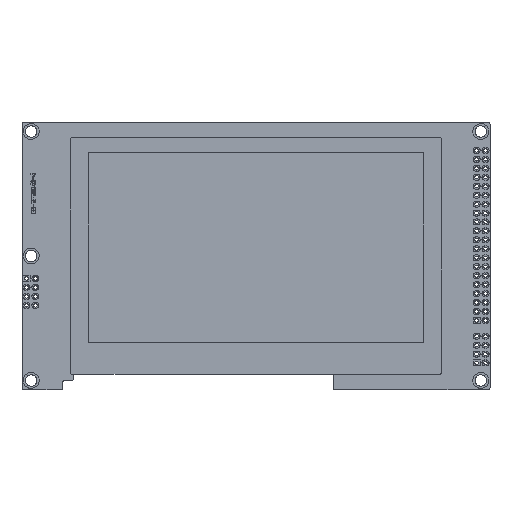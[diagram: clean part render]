
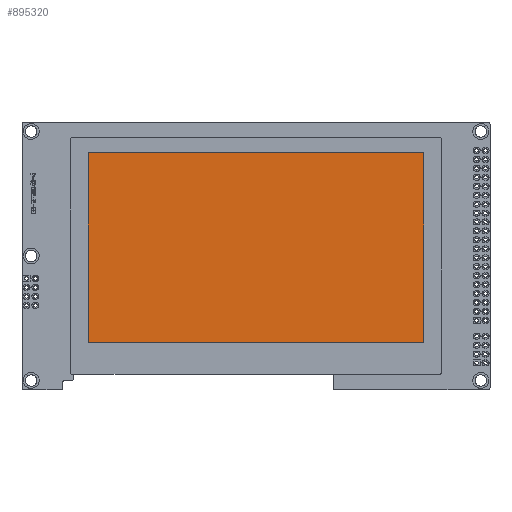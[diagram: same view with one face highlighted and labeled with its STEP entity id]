
A CAD part, top view. The second image highlights one B-rep face of the part: STEP entity #895320.
In plain terms, the highlighted free-form (B-spline) face has degree [1, 1] with [2, 2] control points.
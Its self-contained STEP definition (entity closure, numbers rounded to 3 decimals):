
#108=(GEOMETRIC_REPRESENTATION_CONTEXT(2)PARAMETRIC_REPRESENTATION_CONTEXT()REPRESENTATION_CONTEXT('',''));
#832171=CARTESIAN_POINT('',(18.83,13.34,3.9));
#832172=CARTESIAN_POINT('',(113.87,13.34,3.9));
#832173=CARTESIAN_POINT('',(18.83,13.34,0.8));
#832174=CARTESIAN_POINT('',(113.87,13.34,0.8));
#832175=B_SPLINE_SURFACE_WITH_KNOTS('',1,1,((#832171,#832172),(#832173,#832174)),.UNSPECIFIED.,.F.,.F.,.U.,(2,2),(2,2),(0.,0.003),(0.019,0.114),.UNSPECIFIED.);
#832194=CARTESIAN_POINT('',(18.83,13.34,0.8));
#832195=CARTESIAN_POINT('',(18.83,67.2,0.8));
#832196=CARTESIAN_POINT('',(18.83,13.34,3.9));
#832197=CARTESIAN_POINT('',(18.83,67.2,3.9));
#832198=B_SPLINE_SURFACE_WITH_KNOTS('',1,1,((#832194,#832195),(#832196,#832197)),.UNSPECIFIED.,.F.,.F.,.U.,(2,2),(2,2),(-0.003,0.),(0.013,0.067),.UNSPECIFIED.);
#832217=CARTESIAN_POINT('',(18.83,67.2,0.8));
#832218=CARTESIAN_POINT('',(113.87,67.2,0.8));
#832219=CARTESIAN_POINT('',(18.83,67.2,3.9));
#832220=CARTESIAN_POINT('',(113.87,67.2,3.9));
#832221=B_SPLINE_SURFACE_WITH_KNOTS('',1,1,((#832217,#832218),(#832219,#832220)),.UNSPECIFIED.,.F.,.F.,.U.,(2,2),(2,2),(-0.003,0.),(0.019,0.114),.UNSPECIFIED.);
#832238=CARTESIAN_POINT('',(113.87,13.34,3.9));
#832239=CARTESIAN_POINT('',(113.87,67.2,3.9));
#832240=CARTESIAN_POINT('',(113.87,13.34,0.8));
#832241=CARTESIAN_POINT('',(113.87,67.2,0.8));
#832242=B_SPLINE_SURFACE_WITH_KNOTS('',1,1,((#832238,#832239),(#832240,#832241)),.UNSPECIFIED.,.F.,.F.,.U.,(2,2),(2,2),(0.,0.003),(0.013,0.067),.UNSPECIFIED.);
#895150=CARTESIAN_POINT('',(113.87,13.34,3.9));
#895151=VERTEX_POINT('',#895150);
#895168=CARTESIAN_POINT('',(18.83,13.34,3.9));
#895169=VERTEX_POINT('',#895168);
#895170=CARTESIAN_POINT('',(113.87,13.34,3.9));
#895171=CARTESIAN_POINT('',(113.87,67.2,3.9));
#895172=CARTESIAN_POINT('',(18.83,13.34,3.9));
#895173=CARTESIAN_POINT('',(18.83,67.2,3.9));
#895174=B_SPLINE_SURFACE_WITH_KNOTS('',1,1,((#895170,#895171),(#895172,#895173)),.UNSPECIFIED.,.F.,.F.,.U.,(2,2),(2,2),(-0.114,-0.019),(0.013,0.067),.UNSPECIFIED.);
#895175=CARTESIAN_POINT('',(0.,0.114));
#895176=CARTESIAN_POINT('',(0.,0.019));
#895177=B_SPLINE_CURVE_WITH_KNOTS('',1,(#895175,#895176),.UNSPECIFIED.,.F.,.F.,(2,2),(-0.114,-0.019),.UNSPECIFIED.);
#895178=DEFINITIONAL_REPRESENTATION('',(#895177),#108);
#895179=PCURVE('',#832175,#895178);
#895180=CARTESIAN_POINT('',(-0.114,0.013));
#895181=CARTESIAN_POINT('',(-0.019,0.013));
#895182=B_SPLINE_CURVE_WITH_KNOTS('',1,(#895180,#895181),.UNSPECIFIED.,.F.,.F.,(2,2),(-0.114,-0.019),.UNSPECIFIED.);
#895183=DEFINITIONAL_REPRESENTATION('',(#895182),#108);
#895184=PCURVE('',#895174,#895183);
#895185=CARTESIAN_POINT('',(113.87,13.34,3.9));
#895186=CARTESIAN_POINT('',(18.83,13.34,3.9));
#895187=B_SPLINE_CURVE_WITH_KNOTS('',1,(#895185,#895186),.UNSPECIFIED.,.F.,.F.,(2,2),(-0.114,-0.019),.UNSPECIFIED.);
#895188=INTERSECTION_CURVE('',#895187,(#895179,#895184),.PCURVE_S1.);
#895189=EDGE_CURVE('',#895151,#895169,#895188,.T.);
#895212=CARTESIAN_POINT('',(113.87,67.2,3.9));
#895213=VERTEX_POINT('',#895212);
#895230=CARTESIAN_POINT('',(0.,0.067));
#895231=CARTESIAN_POINT('',(0.,0.013));
#895232=B_SPLINE_CURVE_WITH_KNOTS('',1,(#895230,#895231),.UNSPECIFIED.,.F.,.F.,(2,2),(-0.067,-0.013),.UNSPECIFIED.);
#895233=DEFINITIONAL_REPRESENTATION('',(#895232),#108);
#895234=PCURVE('',#832242,#895233);
#895235=CARTESIAN_POINT('',(-0.114,0.067));
#895236=CARTESIAN_POINT('',(-0.114,0.013));
#895237=B_SPLINE_CURVE_WITH_KNOTS('',1,(#895235,#895236),.UNSPECIFIED.,.F.,.F.,(2,2),(-0.067,-0.013),.UNSPECIFIED.);
#895238=DEFINITIONAL_REPRESENTATION('',(#895237),#108);
#895239=PCURVE('',#895174,#895238);
#895240=CARTESIAN_POINT('',(113.87,67.2,3.9));
#895241=CARTESIAN_POINT('',(113.87,13.34,3.9));
#895242=B_SPLINE_CURVE_WITH_KNOTS('',1,(#895240,#895241),.UNSPECIFIED.,.F.,.F.,(2,2),(-0.067,-0.013),.UNSPECIFIED.);
#895243=INTERSECTION_CURVE('',#895242,(#895234,#895239),.PCURVE_S1.);
#895244=EDGE_CURVE('',#895213,#895151,#895243,.T.);
#895252=CARTESIAN_POINT('',(18.83,67.2,3.9));
#895253=VERTEX_POINT('',#895252);
#895270=CARTESIAN_POINT('',(0.,0.019));
#895271=CARTESIAN_POINT('',(0.,0.114));
#895272=B_SPLINE_CURVE_WITH_KNOTS('',1,(#895270,#895271),.UNSPECIFIED.,.F.,.F.,(2,2),(0.019,0.114),.UNSPECIFIED.);
#895273=DEFINITIONAL_REPRESENTATION('',(#895272),#108);
#895274=PCURVE('',#832221,#895273);
#895275=CARTESIAN_POINT('',(-0.019,0.067));
#895276=CARTESIAN_POINT('',(-0.114,0.067));
#895277=B_SPLINE_CURVE_WITH_KNOTS('',1,(#895275,#895276),.UNSPECIFIED.,.F.,.F.,(2,2),(0.019,0.114),.UNSPECIFIED.);
#895278=DEFINITIONAL_REPRESENTATION('',(#895277),#108);
#895279=PCURVE('',#895174,#895278);
#895280=CARTESIAN_POINT('',(18.83,67.2,3.9));
#895281=CARTESIAN_POINT('',(113.87,67.2,3.9));
#895282=B_SPLINE_CURVE_WITH_KNOTS('',1,(#895280,#895281),.UNSPECIFIED.,.F.,.F.,(2,2),(0.019,0.114),.UNSPECIFIED.);
#895283=INTERSECTION_CURVE('',#895282,(#895274,#895279),.PCURVE_S1.);
#895284=EDGE_CURVE('',#895253,#895213,#895283,.T.);
#895293=CARTESIAN_POINT('',(0.,0.013));
#895294=CARTESIAN_POINT('',(0.,0.067));
#895295=B_SPLINE_CURVE_WITH_KNOTS('',1,(#895293,#895294),.UNSPECIFIED.,.F.,.F.,(2,2),(0.013,0.067),.UNSPECIFIED.);
#895296=DEFINITIONAL_REPRESENTATION('',(#895295),#108);
#895297=PCURVE('',#832198,#895296);
#895298=CARTESIAN_POINT('',(-0.019,0.013));
#895299=CARTESIAN_POINT('',(-0.019,0.067));
#895300=B_SPLINE_CURVE_WITH_KNOTS('',1,(#895298,#895299),.UNSPECIFIED.,.F.,.F.,(2,2),(0.013,0.067),.UNSPECIFIED.);
#895301=DEFINITIONAL_REPRESENTATION('',(#895300),#108);
#895302=PCURVE('',#895174,#895301);
#895303=CARTESIAN_POINT('',(18.83,13.34,3.9));
#895304=CARTESIAN_POINT('',(18.83,67.2,3.9));
#895305=B_SPLINE_CURVE_WITH_KNOTS('',1,(#895303,#895304),.UNSPECIFIED.,.F.,.F.,(2,2),(0.013,0.067),.UNSPECIFIED.);
#895306=INTERSECTION_CURVE('',#895305,(#895297,#895302),.PCURVE_S1.);
#895307=EDGE_CURVE('',#895169,#895253,#895306,.T.);
#895314=ORIENTED_EDGE('',*,*,#895189,.F.);
#895315=ORIENTED_EDGE('',*,*,#895244,.F.);
#895316=ORIENTED_EDGE('',*,*,#895284,.F.);
#895317=ORIENTED_EDGE('',*,*,#895307,.F.);
#895318=EDGE_LOOP('',(#895314,#895315,#895316,#895317));
#895319=FACE_BOUND('',#895318,.T.);
#895320=ADVANCED_FACE('',(#895319),#895174,.F.);
